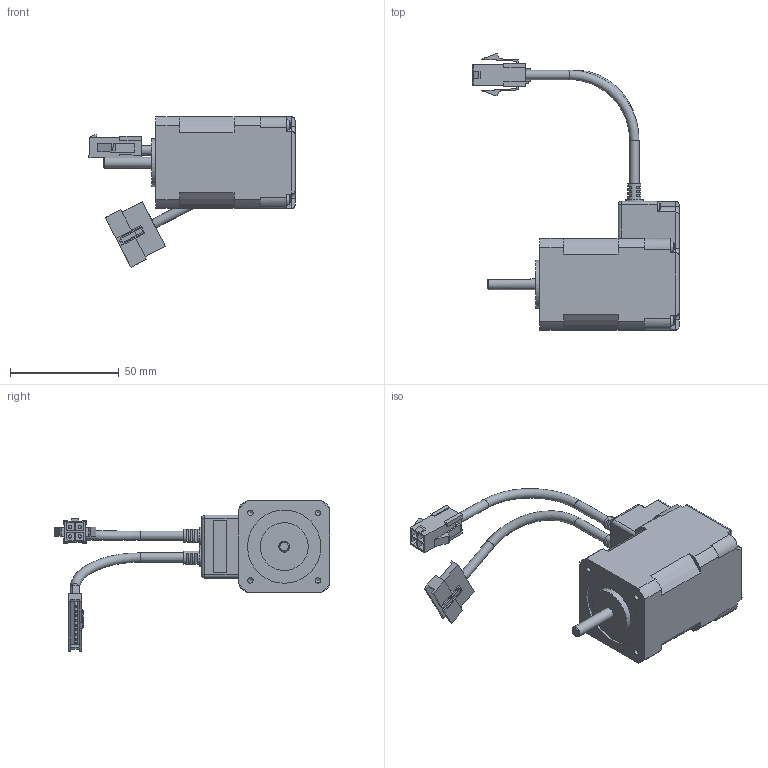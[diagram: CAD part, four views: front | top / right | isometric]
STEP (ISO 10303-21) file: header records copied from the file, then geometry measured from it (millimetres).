
FILE_DESCRIPTION(/* description */ (''),/* implementation_level */ '2;1');
FILE_NAME(/* name */ '\\EMN0D5F01\rp_inventor\RP Mechanical Design\Wiley\Updated Models\eCLM-P173A.stp',/* time_stamp */ '2016-10-27T15:10:05-07:00',/* author */ ('JDB'),/* organization */ ('Parker Hannifin Corp'),/* preprocessor_version */ 'ST-DEVELOPER v15.2',/* originating_system */ 'Autodesk Inventor 2014',/* authorisation */ '');
FILE_SCHEMA (('CONFIG_CONTROL_DESIGN'));
Length unit declared in the file: inch
Products named in the file (1): eCLM-P173A_sw
Bounding box: 94.54 x 126.61 x 68.94 mm (x, y, z)
Volume: 97834 mm3; surface area: 32704.2 mm2
Topology: 3 solids, 3 shells, 661 faces, 1716 edges, 1097 vertices
Faces by surface type: plane 456, cylinder 129, cone 50, torus 12, sphere 8, bspline 6
Full cylindrical faces by diameter (mm): 1 x9, 1.5 x4, 1.6 x4, 2.5 x4, 3 x4, 3.4 x4, 4.3 x4, 5 x2, 5.5 x4, 6 x8, 8 x1, 22 x1, 33.6 x1
Entity records: 19628 total; most frequent: CARTESIAN_POINT 3841, DIRECTION 3327, ORIENTED_EDGE 3160, EDGE_CURVE 1578, AXIS2_PLACEMENT_3D 1164, VERTEX_POINT 1047, LINE 999, VECTOR 999
